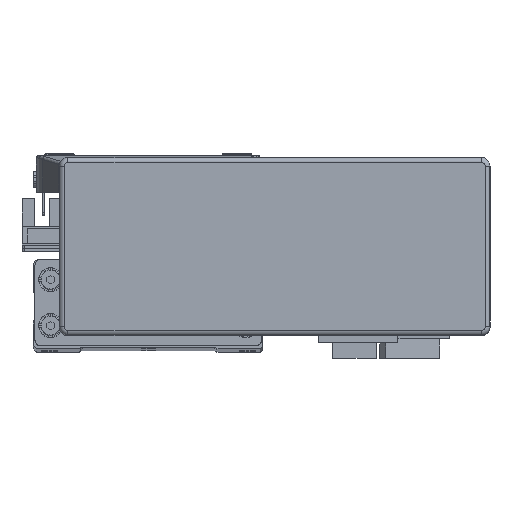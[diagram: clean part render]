
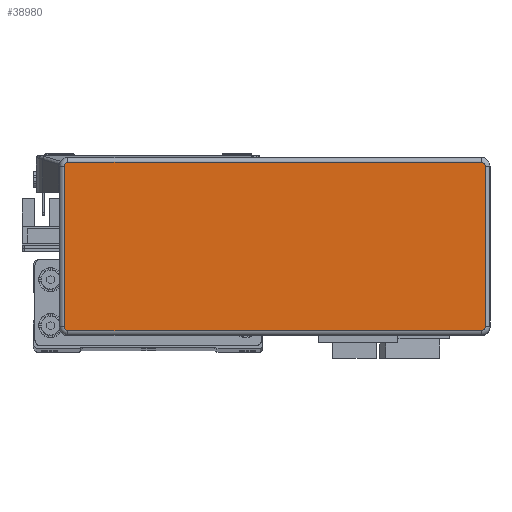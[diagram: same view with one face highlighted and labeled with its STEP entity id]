
A CAD part, top view. The second image highlights one B-rep face of the part: STEP entity #38980.
In plain terms, the highlighted planar face has unit normal (0, 0, 1) as drawn and (0, 0, -1) by its records, which use the part's own axes.
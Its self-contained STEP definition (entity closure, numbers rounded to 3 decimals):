
#13825 = CARTESIAN_POINT ( 'NONE',  ( 73.295, 27.995, -32.2 ) ) ;
#13830 = CARTESIAN_POINT ( 'NONE',  ( 71.995, -29.295, -32.2 ) ) ;
#13868 = CARTESIAN_POINT ( 'NONE',  ( -71.995, 29.295, -32.2 ) ) ;
#13891 = CARTESIAN_POINT ( 'NONE',  ( -71.995, -29.295, -32.2 ) ) ;
#13927 = CARTESIAN_POINT ( 'NONE',  ( 73.295, -27.995, -32.2 ) ) ;
#16677 = CARTESIAN_POINT ( 'NONE',  ( 71.995, 29.295, -32.2 ) ) ;
#16682 = CARTESIAN_POINT ( 'NONE',  ( -73.295, -27.995, -32.2 ) ) ;
#16688 = CARTESIAN_POINT ( 'NONE',  ( -73.295, 27.995, -32.2 ) ) ;
#17046 = VERTEX_POINT ( 'NONE', #16682 ) ;
#17048 = VERTEX_POINT ( 'NONE', #16677 ) ;
#17067 = VERTEX_POINT ( 'NONE', #16688 ) ;
#17088 = VERTEX_POINT ( 'NONE', #13830 ) ;
#17101 = VERTEX_POINT ( 'NONE', #13825 ) ;
#17132 = VERTEX_POINT ( 'NONE', #13868 ) ;
#17151 = VERTEX_POINT ( 'NONE', #13891 ) ;
#17200 = VERTEX_POINT ( 'NONE', #13927 ) ;
#19191 = EDGE_CURVE ( 'NONE', #17048, #17101, #29924, .T. ) ;
#19249 = EDGE_CURVE ( 'NONE', #17088, #17151, #30009, .T. ) ;
#19279 = EDGE_CURVE ( 'NONE', #17132, #17048, #30000, .T. ) ;
#19288 = EDGE_CURVE ( 'NONE', #17151, #17046, #29981, .T. ) ;
#19307 = EDGE_CURVE ( 'NONE', #17101, #17200, #29966, .T. ) ;
#19309 = EDGE_CURVE ( 'NONE', #17067, #17132, #29968, .T. ) ;
#19341 = EDGE_CURVE ( 'NONE', #17200, #17088, #30033, .T. ) ;
#19363 = EDGE_CURVE ( 'NONE', #17046, #17067, #30056, .T. ) ;
#20581 = AXIS2_PLACEMENT_3D ( 'NONE', #39833, #39797, #39777 ) ;
#20616 = AXIS2_PLACEMENT_3D ( 'NONE', #40105, #40107, #40131 ) ;
#20643 = AXIS2_PLACEMENT_3D ( 'NONE', #40078, #40053, #40054 ) ;
#20672 = AXIS2_PLACEMENT_3D ( 'NONE', #40059, #40011, #40002 ) ;
#22768 = FACE_OUTER_BOUND ( 'NONE', #28238, .T. ) ;
#28238 = EDGE_LOOP ( 'NONE', ( #45834, #45806, #45735, #45713, #45733, #45831, #45774, #45751 ) ) ;
#29924 = CIRCLE ( 'NONE', #20581, 1.3 ) ;
#29966 = LINE ( 'NONE', #40014, #29967 ) ;
#29967 = VECTOR ( 'NONE', #40043, 1000. ) ;
#29968 = CIRCLE ( 'NONE', #20643, 1.3 ) ;
#29981 = CIRCLE ( 'NONE', #20672, 1.3 ) ;
#29996 = VECTOR ( 'NONE', #39876, 1000. ) ;
#30000 = LINE ( 'NONE', #39952, #30001 ) ;
#30001 = VECTOR ( 'NONE', #39935, 1000. ) ;
#30009 = LINE ( 'NONE', #39849, #29996 ) ;
#30033 = CIRCLE ( 'NONE', #20616, 1.3 ) ;
#30056 = LINE ( 'NONE', #40249, #30057 ) ;
#30057 = VECTOR ( 'NONE', #40210, 1000. ) ;
#31806 = AXIS2_PLACEMENT_3D ( 'NONE', #33527, #33515, #33516 ) ;
#33484 = PLANE ( 'NONE',  #31806 ) ;
#33515 = DIRECTION ( 'NONE',  ( 0., 0., 1. ) ) ;
#33516 = DIRECTION ( 'NONE',  ( 1., 0., 0. ) ) ;
#33527 = CARTESIAN_POINT ( 'NONE',  ( 71.995, -27.995, -32.2 ) ) ;
#38980 = ADVANCED_FACE ( 'NONE', ( #22768 ), #33484, .F. ) ;
#39777 = DIRECTION ( 'NONE',  ( 1., 0., 0. ) ) ;
#39797 = DIRECTION ( 'NONE',  ( 0., 0., -1. ) ) ;
#39833 = CARTESIAN_POINT ( 'NONE',  ( 71.995, 27.995, -32.2 ) ) ;
#39849 = CARTESIAN_POINT ( 'NONE',  ( 71.995, -29.295, -32.2 ) ) ;
#39876 = DIRECTION ( 'NONE',  ( -1., 0., 0. ) ) ;
#39935 = DIRECTION ( 'NONE',  ( 1., 0., 0. ) ) ;
#39952 = CARTESIAN_POINT ( 'NONE',  ( 71.995, 29.295, -32.2 ) ) ;
#40002 = DIRECTION ( 'NONE',  ( 1., 0., 0. ) ) ;
#40011 = DIRECTION ( 'NONE',  ( 0., 0., -1. ) ) ;
#40014 = CARTESIAN_POINT ( 'NONE',  ( 73.295, -27.995, -32.2 ) ) ;
#40043 = DIRECTION ( 'NONE',  ( 0., -1., 0. ) ) ;
#40053 = DIRECTION ( 'NONE',  ( 0., 0., -1. ) ) ;
#40054 = DIRECTION ( 'NONE',  ( 1., 0., 0. ) ) ;
#40059 = CARTESIAN_POINT ( 'NONE',  ( -71.995, -27.995, -32.2 ) ) ;
#40078 = CARTESIAN_POINT ( 'NONE',  ( -71.995, 27.995, -32.2 ) ) ;
#40105 = CARTESIAN_POINT ( 'NONE',  ( 71.995, -27.995, -32.2 ) ) ;
#40107 = DIRECTION ( 'NONE',  ( 0., 0., -1. ) ) ;
#40131 = DIRECTION ( 'NONE',  ( 1., 0., 0. ) ) ;
#40210 = DIRECTION ( 'NONE',  ( 0., 1., 0. ) ) ;
#40249 = CARTESIAN_POINT ( 'NONE',  ( -73.295, -27.995, -32.2 ) ) ;
#45713 = ORIENTED_EDGE ( 'NONE', *, *, #19288, .T. ) ;
#45733 = ORIENTED_EDGE ( 'NONE', *, *, #19363, .T. ) ;
#45735 = ORIENTED_EDGE ( 'NONE', *, *, #19249, .T. ) ;
#45751 = ORIENTED_EDGE ( 'NONE', *, *, #19191, .T. ) ;
#45774 = ORIENTED_EDGE ( 'NONE', *, *, #19279, .T. ) ;
#45806 = ORIENTED_EDGE ( 'NONE', *, *, #19341, .T. ) ;
#45831 = ORIENTED_EDGE ( 'NONE', *, *, #19309, .T. ) ;
#45834 = ORIENTED_EDGE ( 'NONE', *, *, #19307, .T. ) ;
